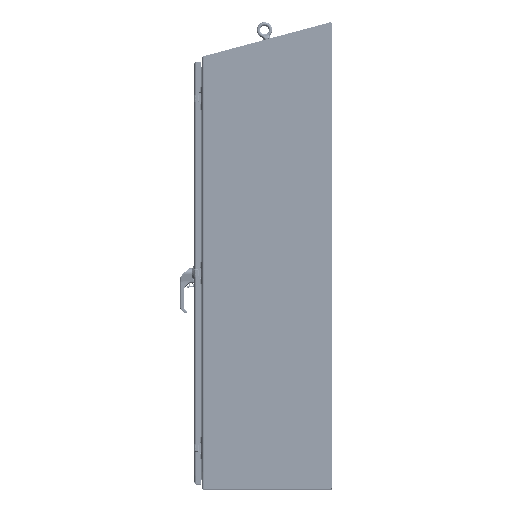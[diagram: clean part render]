
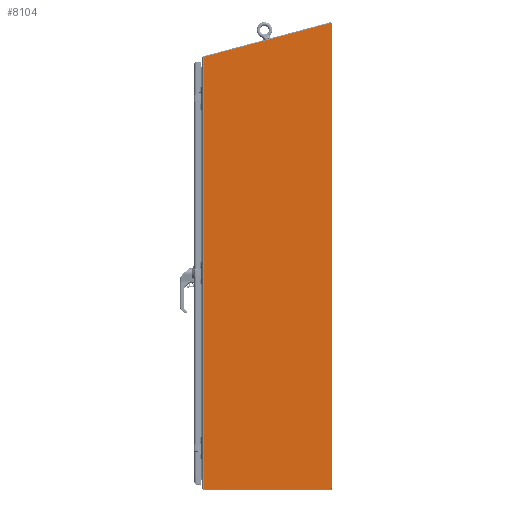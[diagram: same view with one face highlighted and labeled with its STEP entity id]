
A CAD part, top view. The second image highlights one B-rep face of the part: STEP entity #8104.
In plain terms, the highlighted planar face has unit normal (0, 0, 1) as drawn and (-1, 0, 0) by its records, which use the part's own axes.
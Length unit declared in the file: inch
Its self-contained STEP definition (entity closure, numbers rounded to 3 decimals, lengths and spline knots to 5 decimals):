
#6110=CARTESIAN_POINT('',(-2.3855,16.97925,-64.5664));
#6111=DIRECTION('',(-1.,0.,0.));
#6112=DIRECTION('',(0.,1.,0.));
#6113=AXIS2_PLACEMENT_3D('',#6110,#6111,#6112);
#6118=DIRECTION('',(0.,0.,-1.));
#6119=VECTOR('',#6118,64.5039);
#6120=CARTESIAN_POINT('',(-2.3855,17.0105,-0.0625));
#6121=LINE('',#6120,#6119);
#6125=CARTESIAN_POINT('',(-2.3855,16.948,-0.0625));
#6126=DIRECTION('',(-1.,0.,0.));
#6127=DIRECTION('',(0.,0.,1.));
#6128=AXIS2_PLACEMENT_3D('',#6125,#6126,#6127);
#6133=DIRECTION('',(0.,0.966,-0.259));
#6134=VECTOR('',#6133,18.28522);
#6135=CARTESIAN_POINT('',(-2.3855,-0.691,-59.86402));
#6136=LINE('',#6135,#6134);
#6168=CARTESIAN_POINT('',(-2.3855,-0.691,-59.86402));
#6173=DIRECTION('',(0.,0.,-1.));
#6174=VECTOR('',#6173,59.86402);
#6175=CARTESIAN_POINT('',(-2.3855,-0.691,0.));
#6176=LINE('',#6175,#6174);
#6224=DIRECTION('',(0.,-1.,0.));
#6225=VECTOR('',#6224,17.639);
#6226=CARTESIAN_POINT('',(-2.3855,16.948,0.));
#6227=LINE('',#6226,#6225);
#7798=CARTESIAN_POINT('',(-2.3855,-0.691,0.));
#7800=VERTEX_POINT('',#7798);
#7909=CARTESIAN_POINT('',(-2.3855,16.948,0.));
#7910=CARTESIAN_POINT('',(-2.3855,17.0105,-0.0625));
#7911=VERTEX_POINT('',#7909);
#7912=VERTEX_POINT('',#7910);
#7918=VERTEX_POINT('',#6168);
#7925=CARTESIAN_POINT('',(-2.3855,17.0105,-64.5664));
#7926=CARTESIAN_POINT('',(-2.3855,16.97117,-64.59658));
#7927=VERTEX_POINT('',#7925);
#7928=VERTEX_POINT('',#7926);
#8085=CARTESIAN_POINT('',(-2.3855,17.0105,0.));
#8086=DIRECTION('',(-1.,0.,0.));
#8087=DIRECTION('',(0.,-1.,0.));
#8088=AXIS2_PLACEMENT_3D('',#8085,#8086,#8087);
#8089=PLANE('',#8088);
#8091=ORIENTED_EDGE('',*,*,#8090,.F.);
#8093=ORIENTED_EDGE('',*,*,#8092,.F.);
#8095=ORIENTED_EDGE('',*,*,#8094,.F.);
#8097=ORIENTED_EDGE('',*,*,#8096,.T.);
#8099=ORIENTED_EDGE('',*,*,#8098,.T.);
#8101=ORIENTED_EDGE('',*,*,#8100,.T.);
#8102=EDGE_LOOP('',(#8091,#8093,#8095,#8097,#8099,#8101));
#8103=FACE_OUTER_BOUND('',#8102,.F.);
#6114=CIRCLE('',#6113,0.03125);
#6129=CIRCLE('',#6128,0.0625);
#8090=EDGE_CURVE('',#7927,#7928,#6114,.T.);
#8092=EDGE_CURVE('',#7912,#7927,#6121,.T.);
#8094=EDGE_CURVE('',#7911,#7912,#6129,.T.);
#8096=EDGE_CURVE('',#7911,#7800,#6227,.T.);
#8098=EDGE_CURVE('',#7800,#7918,#6176,.T.);
#8100=EDGE_CURVE('',#7918,#7928,#6136,.T.);
#8104=ADVANCED_FACE('',(#8103),#8089,.T.);
